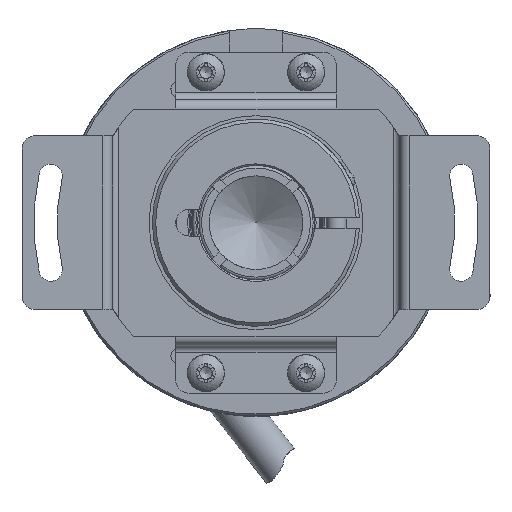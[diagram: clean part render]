
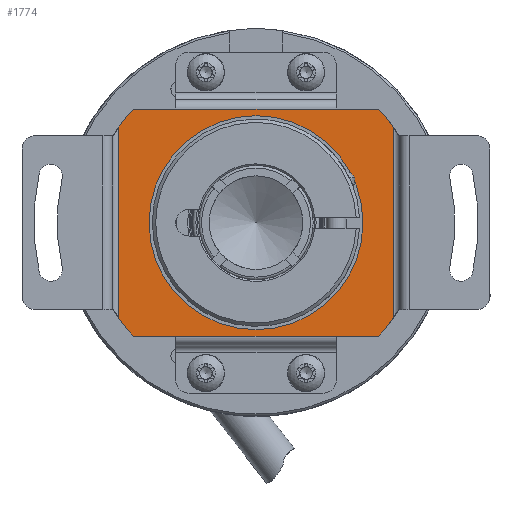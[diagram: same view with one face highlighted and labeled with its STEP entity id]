
A CAD part, left-side view. The second image highlights one B-rep face of the part: STEP entity #1774.
In plain terms, the highlighted planar face has unit normal (-1, 0, 0).
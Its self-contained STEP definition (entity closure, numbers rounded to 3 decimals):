
#1774 = ADVANCED_FACE( '', ( #3865, #3866 ), #3867, .F. );
#3865 = FACE_OUTER_BOUND( '', #29428, .T. );
#3866 = FACE_BOUND( '', #29429, .T. );
#3867 = PLANE( '', #29430 );
#29428 = EDGE_LOOP( '', ( #42303, #42304, #42305, #42306, #42307, #42308, #42309, #42310, #42311, #42312, #42313, #42314 ) );
#29429 = EDGE_LOOP( '', ( #42315 ) );
#29430 = AXIS2_PLACEMENT_3D( '', #42316, #42317, #42318 );
#42303 = ORIENTED_EDGE( '', *, *, #45388, .F. );
#42304 = ORIENTED_EDGE( '', *, *, #45530, .F. );
#42305 = ORIENTED_EDGE( '', *, *, #43954, .F. );
#42306 = ORIENTED_EDGE( '', *, *, #45881, .F. );
#42307 = ORIENTED_EDGE( '', *, *, #44630, .F. );
#42308 = ORIENTED_EDGE( '', *, *, #45231, .F. );
#42309 = ORIENTED_EDGE( '', *, *, #45562, .F. );
#42310 = ORIENTED_EDGE( '', *, *, #44380, .F. );
#42311 = ORIENTED_EDGE( '', *, *, #44524, .F. );
#42312 = ORIENTED_EDGE( '', *, *, #46003, .F. );
#42313 = ORIENTED_EDGE( '', *, *, #45693, .F. );
#42314 = ORIENTED_EDGE( '', *, *, #44324, .F. );
#42315 = ORIENTED_EDGE( '', *, *, #46004, .F. );
#42316 = CARTESIAN_POINT( '', ( 9.6, 0., 17. ) );
#42317 = DIRECTION( '', ( 1., 0., 0. ) );
#42318 = DIRECTION( '', ( 0., 0., 1. ) );
#43954 = EDGE_CURVE( '', #46324, #46327, #46328, .T. );
#44324 = EDGE_CURVE( '', #46971, #46973, #46974, .T. );
#44380 = EDGE_CURVE( '', #47065, #47067, #47068, .T. );
#44524 = EDGE_CURVE( '', #47314, #47065, #47317, .T. );
#44630 = EDGE_CURVE( '', #47485, #47481, #47487, .T. );
#45231 = EDGE_CURVE( '', #48401, #47485, #48403, .T. );
#45388 = EDGE_CURVE( '', #48622, #46971, #48624, .T. );
#45530 = EDGE_CURVE( '', #46327, #48622, #48820, .T. );
#45562 = EDGE_CURVE( '', #47067, #48401, #48859, .T. );
#45693 = EDGE_CURVE( '', #46973, #49022, #49024, .T. );
#45881 = EDGE_CURVE( '', #47481, #46324, #49250, .T. );
#46003 = EDGE_CURVE( '', #49022, #47314, #49401, .T. );
#46004 = EDGE_CURVE( '', #49402, #49402, #49403, .T. );
#46324 = VERTEX_POINT( '', #49742 );
#46327 = VERTEX_POINT( '', #49746 );
#46328 = LINE( '', #49747, #49748 );
#46971 = VERTEX_POINT( '', #52144 );
#46973 = VERTEX_POINT( '', #52155 );
#46974 = CIRCLE( '', #52156, 25. );
#47065 = VERTEX_POINT( '', #52322 );
#47067 = VERTEX_POINT( '', #52325 );
#47068 = CIRCLE( '', #52326, 25. );
#47314 = VERTEX_POINT( '', #53036 );
#47317 = LINE( '', #53040, #53041 );
#47481 = VERTEX_POINT( '', #54109 );
#47485 = VERTEX_POINT( '', #54115 );
#47487 = LINE( '', #54118, #54119 );
#48401 = VERTEX_POINT( '', #57086 );
#48403 = CIRCLE( '', #57097, 25. );
#48622 = VERTEX_POINT( '', #57726 );
#48624 = LINE( '', #57737, #57738 );
#48820 = CIRCLE( '', #58137, 25. );
#48859 = LINE( '', #58258, #58259 );
#49022 = VERTEX_POINT( '', #58871 );
#49024 = LINE( '', #58874, #58875 );
#49250 = LINE( '', #59428, #59429 );
#49401 = LINE( '', #60003, #60004 );
#49402 = VERTEX_POINT( '', #60005 );
#49403 = CIRCLE( '', #60006, 16. );
#49742 = CARTESIAN_POINT( '', ( 9.6, -12., 17. ) );
#49746 = CARTESIAN_POINT( '', ( 9.6, -18.33, 17. ) );
#49747 = CARTESIAN_POINT( '', ( 9.6, 18.33, 17. ) );
#49748 = VECTOR( '', #60790, 1000. );
#52144 = CARTESIAN_POINT( '', ( 9.6, -20.5, -14.309 ) );
#52155 = CARTESIAN_POINT( '', ( 9.6, -18.33, -17. ) );
#52156 = AXIS2_PLACEMENT_3D( '', #61194, #61195, #61196 );
#52322 = CARTESIAN_POINT( '', ( 9.6, 18.33, -17. ) );
#52325 = CARTESIAN_POINT( '', ( 9.6, 20.5, -14.309 ) );
#52326 = AXIS2_PLACEMENT_3D( '', #61271, #61272, #61273 );
#53036 = CARTESIAN_POINT( '', ( 9.6, 12., -17. ) );
#53040 = CARTESIAN_POINT( '', ( 9.6, -18.33, -17. ) );
#53041 = VECTOR( '', #61454, 1000. );
#54109 = CARTESIAN_POINT( '', ( 9.6, 12., 17. ) );
#54115 = CARTESIAN_POINT( '', ( 9.6, 18.33, 17. ) );
#54118 = CARTESIAN_POINT( '', ( 9.6, 18.33, 17. ) );
#54119 = VECTOR( '', #61587, 1000. );
#57086 = CARTESIAN_POINT( '', ( 9.6, 20.5, 14.309 ) );
#57097 = AXIS2_PLACEMENT_3D( '', #62301, #62302, #62303 );
#57726 = CARTESIAN_POINT( '', ( 9.6, -20.5, 14.309 ) );
#57737 = CARTESIAN_POINT( '', ( 9.6, -20.5, 8.5 ) );
#57738 = VECTOR( '', #62504, 1000. );
#58137 = AXIS2_PLACEMENT_3D( '', #62705, #62706, #62707 );
#58258 = CARTESIAN_POINT( '', ( 9.6, 20.5, 8.5 ) );
#58259 = VECTOR( '', #62740, 1000. );
#58871 = CARTESIAN_POINT( '', ( 9.6, -12., -17. ) );
#58874 = CARTESIAN_POINT( '', ( 9.6, -18.33, -17. ) );
#58875 = VECTOR( '', #62875, 1000. );
#59428 = CARTESIAN_POINT( '', ( 9.6, 0., 17. ) );
#59429 = VECTOR( '', #63087, 1000. );
#60003 = CARTESIAN_POINT( '', ( 9.6, 0., -17. ) );
#60004 = VECTOR( '', #63198, 1000. );
#60005 = CARTESIAN_POINT( '', ( 9.6, 16., 0. ) );
#60006 = AXIS2_PLACEMENT_3D( '', #63199, #63200, #63201 );
#60790 = DIRECTION( '', ( 0., -1., 0. ) );
#61194 = CARTESIAN_POINT( '', ( 9.6, 0., 0. ) );
#61195 = DIRECTION( '', ( 1., 0., 0. ) );
#61196 = DIRECTION( '', ( 0., 1., 0. ) );
#61271 = CARTESIAN_POINT( '', ( 9.6, 0., 0. ) );
#61272 = DIRECTION( '', ( 1., 0., 0. ) );
#61273 = DIRECTION( '', ( 0., 1., 0. ) );
#61454 = DIRECTION( '', ( 0., 1., 0. ) );
#61587 = DIRECTION( '', ( 0., -1., 0. ) );
#62301 = CARTESIAN_POINT( '', ( 9.6, 0., 0. ) );
#62302 = DIRECTION( '', ( 1., 0., 0. ) );
#62303 = DIRECTION( '', ( 0., 1., 0. ) );
#62504 = DIRECTION( '', ( 0., 0., -1. ) );
#62705 = CARTESIAN_POINT( '', ( 9.6, 0., 0. ) );
#62706 = DIRECTION( '', ( 1., 0., 0. ) );
#62707 = DIRECTION( '', ( 0., 1., 0. ) );
#62740 = DIRECTION( '', ( 0., 0., 1. ) );
#62875 = DIRECTION( '', ( 0., 1., 0. ) );
#63087 = DIRECTION( '', ( 0., -1., 0. ) );
#63198 = DIRECTION( '', ( 0., 1., 0. ) );
#63199 = CARTESIAN_POINT( '', ( 9.6, 0., 0. ) );
#63200 = DIRECTION( '', ( -1., 0., 0. ) );
#63201 = DIRECTION( '', ( 0., 1., 0. ) );
